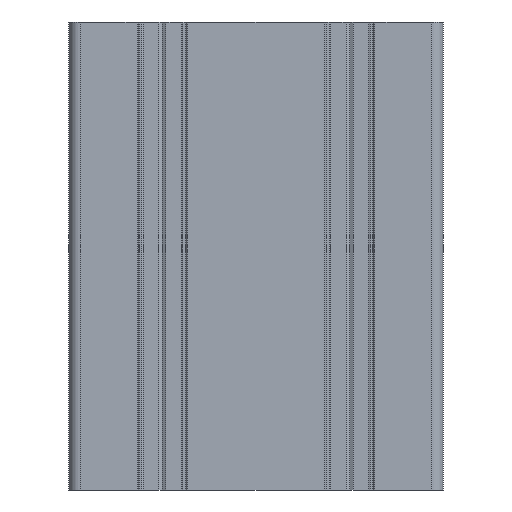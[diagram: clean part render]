
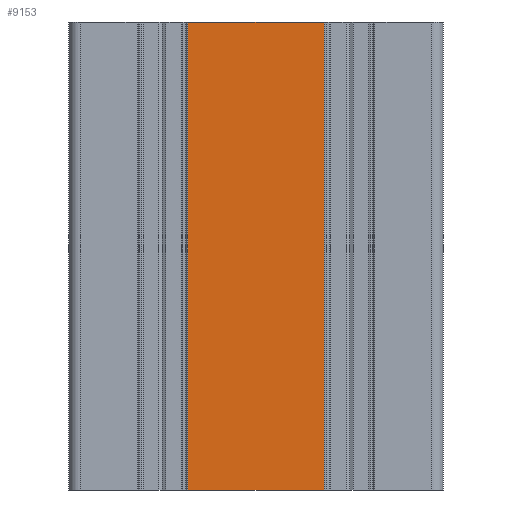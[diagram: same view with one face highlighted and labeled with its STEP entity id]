
A CAD part, front view. The second image highlights one B-rep face of the part: STEP entity #9153.
In plain terms, the highlighted planar face has unit normal (0, -1, 0).
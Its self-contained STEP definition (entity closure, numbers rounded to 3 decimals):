
#801 = EDGE_CURVE ( 'NONE', #3124, #3123, #8435, .T. ) ;
#1754 = CARTESIAN_POINT ( 'NONE',  ( 669.06, 155.934, 0. ) ) ;
#1755 = CARTESIAN_POINT ( 'NONE',  ( 698.26, 155.934, 0. ) ) ;
#2257 = LINE ( 'NONE', #10216, #2261 ) ;
#2261 = VECTOR ( 'NONE', #10215, 1000. ) ;
#2323 = LINE ( 'NONE', #10294, #2326 ) ;
#2326 = VECTOR ( 'NONE', #10295, 1000. ) ;
#2327 = LINE ( 'NONE', #10298, #2330 ) ;
#2330 = VECTOR ( 'NONE', #10299, 1000. ) ;
#2856 = ORIENTED_EDGE ( 'NONE', *, *, #12302, .T. ) ;
#2857 = ORIENTED_EDGE ( 'NONE', *, *, #12337, .F. ) ;
#2858 = ORIENTED_EDGE ( 'NONE', *, *, #801, .F. ) ;
#2859 = ORIENTED_EDGE ( 'NONE', *, *, #12339, .T. ) ;
#3123 = VERTEX_POINT ( 'NONE', #11903 ) ;
#3124 = VERTEX_POINT ( 'NONE', #11904 ) ;
#3625 = EDGE_LOOP ( 'NONE', ( #2856, #2857, #2858, #2859 ) ) ;
#5343 = CARTESIAN_POINT ( 'NONE',  ( 669.06, 155.934, 100. ) ) ;
#5348 = PLANE ( 'NONE',  #11514 ) ;
#5351 = DIRECTION ( 'NONE',  ( 0., 1., 0. ) ) ;
#5352 = DIRECTION ( 'NONE',  ( -1., 0., 0. ) ) ;
#6567 = CARTESIAN_POINT ( 'NONE',  ( 669.06, 155.934, 100. ) ) ;
#6576 = DIRECTION ( 'NONE',  ( 1., 0., 0. ) ) ;
#7415 = FACE_OUTER_BOUND ( 'NONE', #3625, .T. ) ;
#8435 = LINE ( 'NONE', #6567, #8437 ) ;
#8437 = VECTOR ( 'NONE', #6576, 1000. ) ;
#9153 = ADVANCED_FACE ( 'NONE', ( #7415 ), #5348, .F. ) ;
#10215 = DIRECTION ( 'NONE',  ( 1., 0., 0. ) ) ;
#10216 = CARTESIAN_POINT ( 'NONE',  ( 669.06, 155.934, 0. ) ) ;
#10294 = CARTESIAN_POINT ( 'NONE',  ( 698.26, 155.934, 100. ) ) ;
#10295 = DIRECTION ( 'NONE',  ( 0., 0., -1. ) ) ;
#10298 = CARTESIAN_POINT ( 'NONE',  ( 669.06, 155.934, 100. ) ) ;
#10299 = DIRECTION ( 'NONE',  ( 0., 0., -1. ) ) ;
#11043 = VERTEX_POINT ( 'NONE', #1754 ) ;
#11044 = VERTEX_POINT ( 'NONE', #1755 ) ;
#11514 = AXIS2_PLACEMENT_3D ( 'NONE', #5343, #5351, #5352 ) ;
#11903 = CARTESIAN_POINT ( 'NONE',  ( 698.26, 155.934, 100. ) ) ;
#11904 = CARTESIAN_POINT ( 'NONE',  ( 669.06, 155.934, 100. ) ) ;
#12302 = EDGE_CURVE ( 'NONE', #11043, #11044, #2257, .T. ) ;
#12337 = EDGE_CURVE ( 'NONE', #3123, #11044, #2323, .T. ) ;
#12339 = EDGE_CURVE ( 'NONE', #3124, #11043, #2327, .T. ) ;
